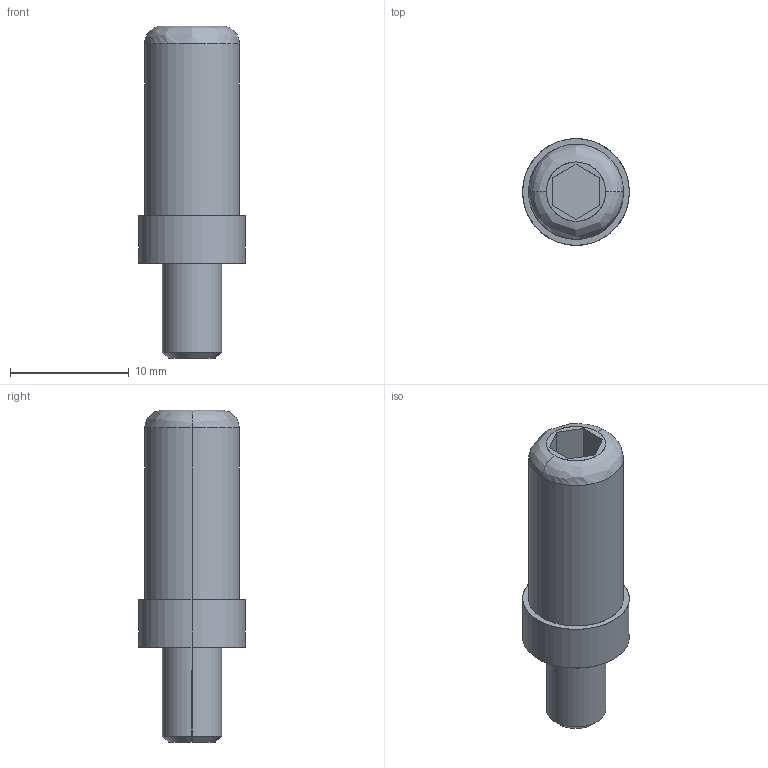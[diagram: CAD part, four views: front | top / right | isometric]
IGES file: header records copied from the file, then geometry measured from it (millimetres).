
Global section: file name: E:\UnigraphicsGraphicData\MISUMI_PRESS-PARTS\IGES\3d_sga9-20_00784_r00.igs; native system: NX V5.0; preprocessor: UGS NX IGES V5.0; author: MISUMI; date: 20110105.162530; units: millimetre
Bounding box: 9 x 9 x 28 mm (x, y, z)
Surface area: 787.9 mm2 (no closed solid volume)
Topology: 0 solids, 0 shells, 21 faces, 124 edges, 124 vertices
Faces by surface type: bspline 21
